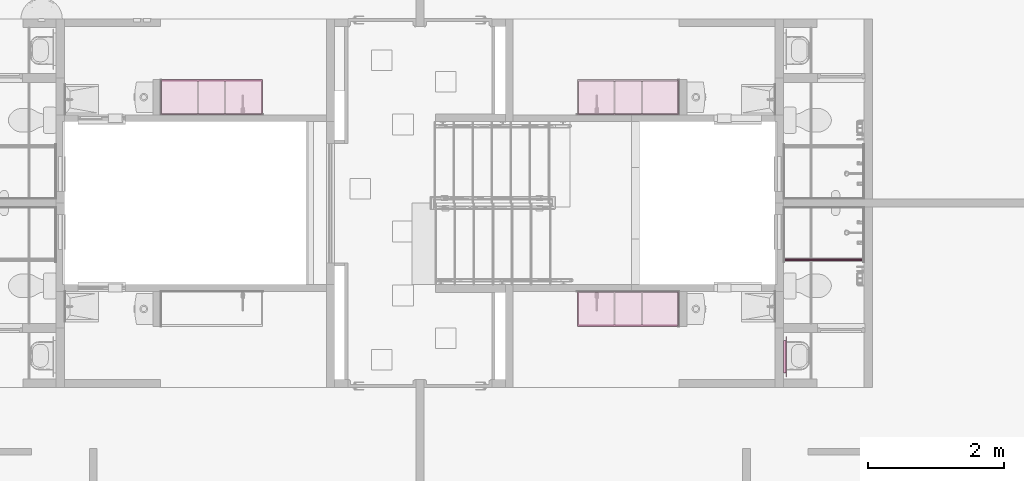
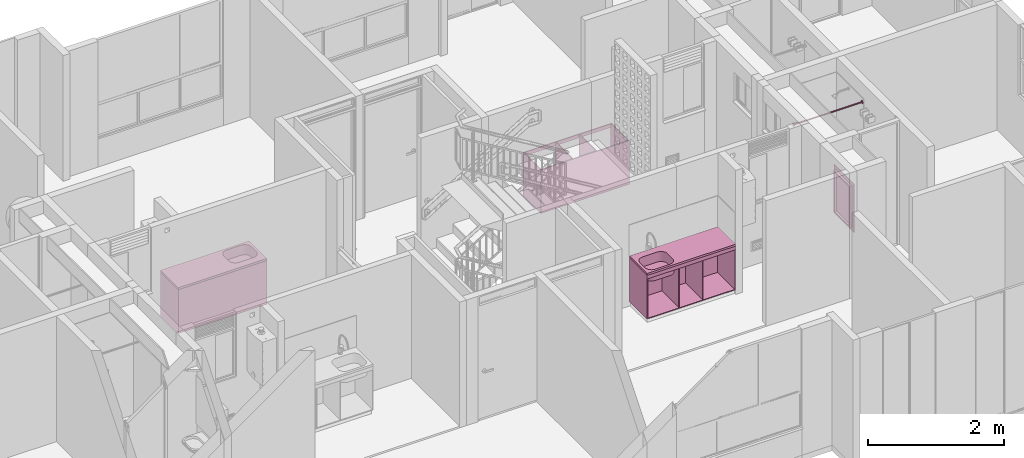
# One storey, part 45 of 51: 7 furniture elements.
"""IFC4 building model written with IfcOpenShell, lengths in metres."""

from ifc_helpers import new_model, entity, si_unit, converted_unit, derived_unit, direction, frame, origin, place, context, subcontext, project, spatial, arc, indexed_curve, outline, extrude, polygons, source, transform, mapped, material, constituent, constituent_set, type_object, type_shapes, element, save


model = new_model("IFC4")

# Units and contexts
model_context = context("Model", 3, precision=1e-05, world=origin(), true_north=direction((6.123031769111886e-17, 1.0)))
body_context = subcontext(model_context, "Body", "Model", "MODEL_VIEW")
ifc_project = project(units=[si_unit("LENGTHUNIT", "METRE"), si_unit("AREAUNIT", "SQUARE_METRE"), si_unit("VOLUMEUNIT", "CUBIC_METRE"), converted_unit("PLANEANGLEUNIT", "DEGREE", entity("IfcRatioMeasure", 0.017453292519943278), si_unit("PLANEANGLEUNIT", "RADIAN"), dimensions=[0, 0, 0, 0, 0, 0, 0]), si_unit("MASSUNIT", "GRAM", prefix="KILO"), derived_unit("MASSDENSITYUNIT", [(si_unit("MASSUNIT", "GRAM", prefix="KILO"), 1), (si_unit("LENGTHUNIT", "METRE"), -3)]), derived_unit("IONCONCENTRATIONUNIT", [(si_unit("MASSUNIT", "GRAM", prefix="KILO"), 1), (si_unit("LENGTHUNIT", "METRE"), -3)]), derived_unit("MOMENTOFINERTIAUNIT", [(si_unit("LENGTHUNIT", "METRE"), 4)]), si_unit("TIMEUNIT", "SECOND"), si_unit("FREQUENCYUNIT", "HERTZ"), si_unit("THERMODYNAMICTEMPERATUREUNIT", "DEGREE_CELSIUS"), derived_unit("THERMALTRANSMITTANCEUNIT", [(si_unit("MASSUNIT", "GRAM", prefix="KILO"), 1), (si_unit("THERMODYNAMICTEMPERATUREUNIT", "KELVIN"), -1), (si_unit("TIMEUNIT", "SECOND"), -3)]), derived_unit("THERMALCONDUCTANCEUNIT", [(si_unit("MASSUNIT", "GRAM", prefix="KILO"), 1), (si_unit("THERMODYNAMICTEMPERATUREUNIT", "KELVIN"), -1), (si_unit("TIMEUNIT", "SECOND"), -3), (si_unit("LENGTHUNIT", "METRE"), 1)]), derived_unit("VOLUMETRICFLOWRATEUNIT", [(si_unit("LENGTHUNIT", "METRE"), 3), (si_unit("TIMEUNIT", "SECOND"), -1)]), derived_unit("MASSFLOWRATEUNIT", [(si_unit("MASSUNIT", "GRAM", prefix="KILO"), 1), (si_unit("TIMEUNIT", "SECOND"), -1)]), derived_unit("ROTATIONALFREQUENCYUNIT", [(si_unit("TIMEUNIT", "SECOND"), -1)]), si_unit("ELECTRICCURRENTUNIT", "AMPERE"), si_unit("ELECTRICVOLTAGEUNIT", "VOLT"), si_unit("POWERUNIT", "WATT"), si_unit("FORCEUNIT", "NEWTON", prefix="KILO"), si_unit("ILLUMINANCEUNIT", "LUX"), si_unit("LUMINOUSFLUXUNIT", "LUMEN"), si_unit("LUMINOUSINTENSITYUNIT", "CANDELA"), derived_unit("USERDEFINED", [(si_unit("MASSUNIT", "GRAM", prefix="KILO"), -1), (si_unit("LENGTHUNIT", "METRE"), -2), (si_unit("TIMEUNIT", "SECOND"), 3), (si_unit("LUMINOUSFLUXUNIT", "LUMEN"), 1)]), derived_unit("USERDEFINED", [(si_unit("MASSUNIT", "GRAM", prefix="KILO"), 1), (si_unit("TIMEUNIT", "SECOND"), -3), (si_unit("LENGTHUNIT", "METRE"), 3), (si_unit("ELECTRICCURRENTUNIT", "AMPERE"), -2)]), derived_unit("SOUNDPOWERUNIT", [(si_unit("MASSUNIT", "GRAM", prefix="KILO"), 1), (si_unit("TIMEUNIT", "SECOND"), -3), (si_unit("LENGTHUNIT", "METRE"), 2)]), derived_unit("SOUNDPRESSUREUNIT", [(si_unit("MASSUNIT", "GRAM", prefix="KILO"), 1), (si_unit("LENGTHUNIT", "METRE"), -1), (si_unit("TIMEUNIT", "SECOND"), -2)]), derived_unit("LINEARVELOCITYUNIT", [(si_unit("LENGTHUNIT", "METRE"), 1), (si_unit("TIMEUNIT", "SECOND"), -1)]), si_unit("PRESSUREUNIT", "PASCAL"), derived_unit("USERDEFINED", [(si_unit("MASSUNIT", "GRAM", prefix="KILO"), 1), (si_unit("LENGTHUNIT", "METRE"), -2), (si_unit("TIMEUNIT", "SECOND"), -2)]), derived_unit("LINEARFORCEUNIT", [(si_unit("MASSUNIT", "GRAM", prefix="KILO"), 1), (si_unit("TIMEUNIT", "SECOND"), -2)]), derived_unit("PLANARFORCEUNIT", [(si_unit("MASSUNIT", "GRAM", prefix="KILO"), 1), (si_unit("LENGTHUNIT", "METRE"), -1), (si_unit("TIMEUNIT", "SECOND"), -2)]), derived_unit("SPECIFICHEATCAPACITYUNIT", [(si_unit("THERMODYNAMICTEMPERATUREUNIT", "KELVIN"), -1), (si_unit("LENGTHUNIT", "METRE"), 2), (si_unit("TIMEUNIT", "SECOND"), -2)]), derived_unit("HEATINGVALUEUNIT", [(si_unit("LENGTHUNIT", "METRE"), 2), (si_unit("TIMEUNIT", "SECOND"), -2)]), derived_unit("VAPORPERMEABILITYUNIT", [(si_unit("LENGTHUNIT", "METRE"), -1), (si_unit("TIMEUNIT", "SECOND"), 1)]), derived_unit("DYNAMICVISCOSITYUNIT", [(si_unit("MASSUNIT", "GRAM", prefix="KILO"), 1), (si_unit("TIMEUNIT", "SECOND"), -1), (si_unit("LENGTHUNIT", "METRE"), -1)]), derived_unit("THERMALEXPANSIONCOEFFICIENTUNIT", [(si_unit("THERMODYNAMICTEMPERATUREUNIT", "KELVIN"), -1)]), derived_unit("MODULUSOFELASTICITYUNIT", [(si_unit("MASSUNIT", "GRAM", prefix="KILO"), 1), (si_unit("LENGTHUNIT", "METRE"), -1), (si_unit("TIMEUNIT", "SECOND"), -2)]), derived_unit("ISOTHERMALMOISTURECAPACITYUNIT", [(si_unit("LENGTHUNIT", "METRE"), 3), (si_unit("MASSUNIT", "GRAM", prefix="KILO"), -1)]), derived_unit("MOISTUREDIFFUSIVITYUNIT", [(si_unit("TIMEUNIT", "SECOND"), -1), (si_unit("LENGTHUNIT", "METRE"), 2)])], contexts=[model_context])

# Site, building, storey
site_placement = place(None, origin())
site = spatial("IfcSite", under=ifc_project, at=site_placement, Name="Default", CompositionType="ELEMENT")
building_placement = place(site_placement, origin())
building = spatial("IfcBuilding", under=site, at=building_placement, CompositionType="ELEMENT")
storey_placement = place(building_placement, frame((0.0, 0.0, 2.350000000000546)))
storey = spatial("IfcBuildingStorey", under=building, at=storey_placement, Name="Nivel 2", CompositionType="ELEMENT", Elevation=2.350000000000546)

# Furniture
ifc_material_1 = material(Name="Aluminio", Category="Materials")
ifc_constituent_1 = constituent(ifc_material_1, Name="Aluminio", Category="Materials")
ifc_material_2 = material(Name="ESPEJO", Category="Materials")
ifc_constituent_2 = constituent(ifc_material_2, Name="ESPEJO", Category="Materials")
ifc_constituent_set_1 = constituent_set(constituents=[ifc_constituent_1, ifc_constituent_2])
ifc_constituent_3 = constituent(ifc_material_1, Name="Aluminio", Category="Materials")
ifc_constituent_4 = constituent(ifc_material_2, Name="ESPEJO", Category="Materials")
ifc_constituent_set_2 = constituent_set(constituents=[ifc_constituent_3, ifc_constituent_4])
furniture_type_1 = type_object("IfcFurnitureType", Name="E2050 - Espejo:E2050 - 0.60m x 0.87m - Espejo", AssemblyPlace="NOTDEFINED", PredefinedType="NOTDEFINED", material=ifc_constituent_set_2)
shared_shape_1 = source(origin(), body_context, "Body", "SweptSolid", [
    extrude(outline(indexed_curve([(-0.3749999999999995, -0.2399999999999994), (0.37499999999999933, -0.23999999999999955), (0.3749999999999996, 0.2399999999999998), (-0.3749999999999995, 0.23999999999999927), (-0.3749999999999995, -0.2399999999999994)], self_intersect=False), holes=[indexed_curve([(-0.34999999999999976, 0.21499999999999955), (0.34999999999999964, 0.21499999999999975), (0.34999999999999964, -0.21499999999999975), (-0.34999999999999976, -0.21499999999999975), (-0.34999999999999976, 0.21499999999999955)], self_intersect=False)]), frame((0.12499999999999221, -0.09999999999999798, 1.485), z_axis=(0.0, 1.0, 0.0), x_axis=(0.0, 0.0, -1.0)), (0.0, 0.0, 1.0), 0.037500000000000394),
    extrude(outline(indexed_curve([(-0.30000000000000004, -0.00350000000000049), (0.30000000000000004, -0.00350000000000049), (0.30000000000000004, 0.00350000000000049), (-0.30000000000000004, 0.00350000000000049), (-0.30000000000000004, -0.00350000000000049)], self_intersect=False)), frame((0.1249999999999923, -0.10350000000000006, 1.05), z_axis=(0.0, 0.0, 1.0), x_axis=(-1.0, 0.0, 0.0)), (0.0, 0.0, 1.0), 0.87),
])
type_shapes(furniture_type_1, [shared_shape_1])
furniture_1_placement = place(storey_placement, frame((14.620000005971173, -8.815000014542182, -0.020000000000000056), z_axis=(0.0, 0.0, 1.0), x_axis=(0.0, 1.0, 0.0)))
element("IfcFurniture", 1, at=furniture_1_placement, inside=storey, type_object=furniture_type_1, material=ifc_constituent_set_1, Name="E2050 - Espejo:E2050 - 0.60m x 0.87m - Espejo", ObjectType="E2050 - Espejo:E2050 - 0.60m x 0.87m - Espejo", PredefinedType="NOTDEFINED", context=body_context, shape_type="MappedRepresentation", body=[
    mapped(shared_shape_1, transform((0.0, 0.0, 0.0), scale=1.0)),
])

# Space
space_1_placement = place(storey_placement, origin())
space_1 = spatial("IfcSpace", under=storey, at=space_1_placement, Name="426", CompositionType="ELEMENT", PredefinedType="SPACE")

# Furniture
ifc_material_3 = material(Name="<Unnamed>")
furniture_type_2 = type_object("IfcFurnitureType", Name="Barra baño:E2050- Barra Baño- Acero inoxidable", AssemblyPlace="NOTDEFINED", PredefinedType="NOTDEFINED", material=ifc_material_3)
shared_shape_2 = source(origin(), body_context, "Body", "SweptSolid", [
    extrude(outline(indexed_curve([(-0.025, 2.707167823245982e-16), (-2.9325041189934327e-16, -0.025), (0.025, 0.0), (7.924642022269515e-17, 0.025)], segments=[arc(1, 2, 3), arc(3, 4, 1)], self_intersect=False)), frame((-1.1599989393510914, 0.0, 1.8000000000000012), z_axis=(1.0, 0.0, 0.0), x_axis=(0.0, -1.0, 0.0)), (0.0, 0.0, 1.0), 0.005000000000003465),
    extrude(outline(indexed_curve([(-0.03, 2.707167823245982e-16), (-3.2525514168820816e-16, -0.029999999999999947), (0.03, 0.0), (9.509570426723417e-17, 0.029999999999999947)], segments=[arc(1, 2, 3), arc(3, 4, 1)], self_intersect=False)), frame((-1.164998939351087, 0.0, 1.8000000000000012), z_axis=(1.0, 0.0, 0.0), x_axis=(0.0, -1.0, 0.0)), (0.0, 0.0, 1.0), 0.0049999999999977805),
    extrude(outline(indexed_curve([(-0.0125, 0.0), (-8.001182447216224e-17, -0.012499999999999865), (0.0125, 0.0), (3.9623210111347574e-17, 0.012499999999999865)], segments=[arc(1, 2, 3), arc(3, 4, 1)], self_intersect=False)), frame((-1.1549989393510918, 0.0, 1.7999999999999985), z_axis=(1.0, 0.0, 0.0), x_axis=(0.0, -1.0, 0.0)), (0.0, 0.0, 1.0), 1.149998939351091),
    extrude(outline(indexed_curve([(-0.025, 0.0), (-1.600236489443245e-16, -0.025000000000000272), (0.025, 0.0), (-5.398034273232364e-17, 0.02499999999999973)], segments=[arc(1, 2, 3), arc(3, 4, 1)], self_intersect=False)), frame((-0.005000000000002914, 0.0, 1.7999999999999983), z_axis=(1.0, 0.0, 0.0), x_axis=(0.0, -1.0, 0.0)), (0.0, 0.0, 1.0), 0.005000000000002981),
    extrude(outline(indexed_curve([(-0.03, 0.0), (-1.9202837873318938e-16, -0.030000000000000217), (0.03, 0.0), (-3.813105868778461e-17, 0.029999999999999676)], segments=[arc(1, 2, 3), arc(3, 4, 1)], self_intersect=False)), frame((0.0, 0.0, 1.7999999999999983), z_axis=(1.0, 0.0, 0.0), x_axis=(0.0, -1.0, 0.0)), (0.0, 0.0, 1.0), 0.00499999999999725),
])
type_shapes(furniture_type_2, [shared_shape_2])
furniture_2_placement = place(space_1_placement, frame((14.692500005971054, -7.260000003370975, 0.12999999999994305), z_axis=(0.0, 0.0, 1.0), x_axis=(-1.0, 0.0, 0.0)))
element("IfcFurniture", 2, at=furniture_2_placement, inside=space_1, type_object=furniture_type_2, material=ifc_material_3, Name="Barra baño:E2050- Barra Baño- Acero inoxidable", ObjectType="Barra baño:E2050- Barra Baño- Acero inoxidable", PredefinedType="NOTDEFINED", context=body_context, shape_type="MappedRepresentation", body=[
    mapped(shared_shape_2, transform((0.0, 0.0, 0.0), scale=1.0)),
])

# Space
space_2_placement = place(storey_placement, origin())
space_2 = spatial("IfcSpace", under=storey, at=space_2_placement, Name="422", CompositionType="ELEMENT", PredefinedType="SPACE")

# Furniture
ifc_material_4 = material(Name="mueble cocina", Category="Materials")
furniture_type_3 = type_object("IfcFurnitureType", Name="E2010 - Mueble bajo de cocina - Madera:E2010 - 1.50 x 0.52 - Mueble bajo de cocina - Madera", AssemblyPlace="NOTDEFINED", PredefinedType="NOTDEFINED", material=ifc_material_4)
shared_shape_3 = source(origin(), body_context, "Body", "SweptSolid", [
    extrude(outline(indexed_curve([(-0.007500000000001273, -0.7349999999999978), (0.007499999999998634, -0.7349999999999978), (0.007500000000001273, 0.7349999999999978), (-0.007499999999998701, 0.7349999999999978), (-0.007500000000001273, -0.7349999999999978)], self_intersect=False)), frame((0.04470032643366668, -0.5125000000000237, 0.8149999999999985), z_axis=(0.0, 0.0, 1.0), x_axis=(0.0, -1.0, 0.0)), (0.0, 0.0, 1.0), 0.06500000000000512),
    extrude(outline(indexed_curve([(-0.2600000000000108, -0.7499999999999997), (0.260000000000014, -0.7499999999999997), (0.2600000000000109, 0.7500000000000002), (-0.2600000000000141, 0.7499999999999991), (-0.2600000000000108, -0.7499999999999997)], self_intersect=False)), frame((0.04470032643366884, -0.2600000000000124, 0.09500000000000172), z_axis=(0.0, 0.0, 1.0), x_axis=(0.0, -1.0, 0.0)), (0.0, 0.0, 1.0), 0.0149999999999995),
    extrude(outline(indexed_curve([(-0.007500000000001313, -0.7500000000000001), (0.007499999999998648, -0.7500000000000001), (0.0075000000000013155, 0.7500000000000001), (-0.007499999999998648, 0.7500000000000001), (-0.007500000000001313, -0.7500000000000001)], self_intersect=False)), frame((0.04470032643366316, -0.00749999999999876, 0.11000000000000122), z_axis=(0.0, 0.0, 1.0), x_axis=(0.0, -1.0, 0.0)), (0.0, 0.0, 1.0), 0.7700000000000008),
    extrude(outline(indexed_curve([(-0.007500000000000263, -0.24500000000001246), (0.007499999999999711, -0.24500000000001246), (0.007500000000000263, 0.24500000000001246), (-0.007499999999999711, 0.24500000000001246), (-0.007500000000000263, -0.24500000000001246)], self_intersect=False)), frame((-0.1552996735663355, -0.2600000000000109, 0.11000000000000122), z_axis=(0.0, 0.0, 1.0), x_axis=(-1.0, 0.0, 0.0)), (0.0, 0.0, 1.0), 0.7700000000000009),
    extrude(outline(indexed_curve([(-0.007499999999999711, -0.24500000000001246), (0.007500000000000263, -0.24500000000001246), (0.007499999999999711, 0.24500000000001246), (-0.007500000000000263, 0.24500000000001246), (-0.007499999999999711, -0.24500000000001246)], self_intersect=False)), frame((0.24470032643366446, -0.26000000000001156, 0.11000000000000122), z_axis=(0.0, 0.0, 1.0), x_axis=(-1.0, 0.0, 0.0)), (0.0, 0.0, 1.0), 0.7700000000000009),
    extrude(outline(indexed_curve([(-0.00750000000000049, -0.2525000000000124), (0.0074999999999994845, -0.25250000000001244), (0.007500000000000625, 0.2525000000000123), (-0.007499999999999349, 0.2525000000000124), (-0.00750000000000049, -0.2525000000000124)], self_intersect=False)), frame((0.7872003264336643, -0.2675000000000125, 0.11000000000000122), z_axis=(0.0, 0.0, 1.0), x_axis=(-1.0, 0.0, 0.0)), (0.0, 0.0, 1.0), 0.7700000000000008),
    extrude(outline(indexed_curve([(-0.007499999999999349, -0.2525000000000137), (0.007500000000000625, -0.2525000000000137), (0.0074999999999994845, 0.25250000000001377), (-0.00750000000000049, 0.2525000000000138), (-0.007499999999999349, -0.2525000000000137)], self_intersect=False)), frame((-0.697799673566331, -0.2675000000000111, 0.11000000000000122), z_axis=(0.0, 0.0, 1.0), x_axis=(-1.0, 0.0, 0.0)), (0.0, 0.0, 1.0), 0.7700000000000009),
])
type_shapes(furniture_type_3, [shared_shape_3])
furniture_3_placement = place(space_2_placement, frame((12.437200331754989, -5.1250000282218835, 0.0150000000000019), z_axis=(0.0, 0.0, 1.0), x_axis=(-1.0, 0.0, 0.0)))
element("IfcFurniture", 3, at=furniture_3_placement, inside=space_2, type_object=furniture_type_3, material=ifc_material_4, Name="E2010 - Mueble bajo de cocina - Madera:E2010 - 1.50 x 0.52 - Mueble bajo de cocina - Madera", ObjectType="E2010 - Mueble bajo de cocina - Madera:E2010 - 1.50 x 0.52 - Mueble bajo de cocina - Madera", PredefinedType="NOTDEFINED", context=body_context, shape_type="MappedRepresentation", body=[
    mapped(shared_shape_3, transform((0.0, 0.0, 0.0), scale=1.0)),
])

# Space
space_3_placement = place(storey_placement, origin())
space_3 = spatial("IfcSpace", under=storey, at=space_3_placement, Name="407", CompositionType="ELEMENT", PredefinedType="SPACE")

# Furniture
furniture_type_4 = type_object("IfcFurnitureType", Name="E2010 - Mueble bajo de cocina - Madera:E2010 - 1.50 x 0.52 - Mueble bajo de cocina - Madera", AssemblyPlace="NOTDEFINED", PredefinedType="NOTDEFINED", material=ifc_material_4)
shared_shape_4 = source(origin(), body_context, "Body", "SweptSolid", [
    extrude(outline(indexed_curve([(-0.7349999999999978, -0.007499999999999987), (0.7349999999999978, -0.007499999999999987), (0.7349999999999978, 0.007499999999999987), (-0.7349999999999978, 0.007499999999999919), (-0.7349999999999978, -0.007499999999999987)], self_intersect=False)), frame((0.04470032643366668, 0.5125000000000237, 0.8149999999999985)), (0.0, 0.0, 1.0), 0.06500000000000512),
    extrude(outline(indexed_curve([(-0.7499999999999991, -0.26000000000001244), (0.7499999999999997, -0.26000000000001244), (0.7499999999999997, 0.26000000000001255), (-0.7500000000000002, 0.26000000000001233), (-0.7499999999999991, -0.26000000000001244)], self_intersect=False)), frame((0.04470032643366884, 0.26000000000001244, 0.09500000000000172)), (0.0, 0.0, 1.0), 0.0149999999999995),
    extrude(outline(indexed_curve([(-0.7500000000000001, -0.007499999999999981), (0.7500000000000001, -0.007499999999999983), (0.7500000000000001, 0.007499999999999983), (-0.7500000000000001, 0.007499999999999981), (-0.7500000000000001, -0.007499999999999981)], self_intersect=False)), frame((0.04470032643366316, 0.00749999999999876, 0.11000000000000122)), (0.0, 0.0, 1.0), 0.7700000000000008),
    extrude(outline(indexed_curve([(-0.24500000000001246, -0.007499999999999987), (0.24500000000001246, -0.007499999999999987), (0.24500000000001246, 0.007499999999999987), (-0.24500000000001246, 0.007499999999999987), (-0.24500000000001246, -0.007499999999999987)], self_intersect=False)), frame((-0.1552996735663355, 0.2600000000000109, 0.11000000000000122), z_axis=(0.0, 0.0, 1.0), x_axis=(0.0, 1.0, 0.0)), (0.0, 0.0, 1.0), 0.7700000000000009),
    extrude(outline(indexed_curve([(-0.24500000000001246, -0.007499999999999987), (0.24500000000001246, -0.007499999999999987), (0.24500000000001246, 0.007499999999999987), (-0.24500000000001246, 0.007499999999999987), (-0.24500000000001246, -0.007499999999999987)], self_intersect=False)), frame((0.24470032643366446, 0.26000000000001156, 0.11000000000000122), z_axis=(0.0, 0.0, 1.0), x_axis=(0.0, 1.0, 0.0)), (0.0, 0.0, 1.0), 0.7700000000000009),
    extrude(outline(indexed_curve([(-0.25250000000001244, -0.007500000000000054), (0.2525000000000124, -0.007500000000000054), (0.2525000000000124, 0.007499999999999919), (-0.2525000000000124, 0.007499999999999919), (-0.25250000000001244, -0.007500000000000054)], self_intersect=False)), frame((0.7872003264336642, 0.2675000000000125, 0.11000000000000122), z_axis=(0.0, 0.0, 1.0), x_axis=(0.0, 1.0, 0.0)), (0.0, 0.0, 1.0), 0.7700000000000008),
    extrude(outline(indexed_curve([(-0.2525000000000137, -0.007500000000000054), (0.2525000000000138, -0.007500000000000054), (0.2525000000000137, 0.007499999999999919), (-0.2525000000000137, 0.007499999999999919), (-0.2525000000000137, -0.007500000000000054)], self_intersect=False)), frame((-0.6977996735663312, 0.2675000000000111, 0.11000000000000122), z_axis=(0.0, 0.0, 1.0), x_axis=(0.0, 1.0, 0.0)), (0.0, 0.0, 1.0), 0.7700000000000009),
])
type_shapes(furniture_type_4, [shared_shape_4])
furniture_4_placement = place(space_3_placement, frame((6.207799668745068, -5.1250000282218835, 0.0150000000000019)))
element("IfcFurniture", 4, at=furniture_4_placement, inside=space_3, type_object=furniture_type_4, material=ifc_material_4, Name="E2010 - Mueble bajo de cocina - Madera:E2010 - 1.50 x 0.52 - Mueble bajo de cocina - Madera", ObjectType="E2010 - Mueble bajo de cocina - Madera:E2010 - 1.50 x 0.52 - Mueble bajo de cocina - Madera", PredefinedType="NOTDEFINED", context=body_context, shape_type="MappedRepresentation", body=[
    mapped(shared_shape_4, transform((0.0, 0.0, 0.0), scale=1.0)),
])

# Space
space_4_placement = place(storey_placement, origin())
space_4 = spatial("IfcSpace", under=storey, at=space_4_placement, Name="429", CompositionType="ELEMENT", PredefinedType="SPACE")

# Furniture
furniture_5_placement = place(space_4_placement, frame((12.437200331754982, -7.725000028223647, 0.0150000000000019), z_axis=(0.0, 0.0, 1.0), x_axis=(-1.0, 0.0, 0.0)))
element("IfcFurniture", 5, at=furniture_5_placement, inside=space_4, type_object=furniture_type_4, material=ifc_material_4, Name="E2010 - Mueble bajo de cocina - Madera:E2010 - 1.50 x 0.52 - Mueble bajo de cocina - Madera", ObjectType="E2010 - Mueble bajo de cocina - Madera:E2010 - 1.50 x 0.52 - Mueble bajo de cocina - Madera", PredefinedType="NOTDEFINED", context=body_context, shape_type="MappedRepresentation", body=[
    mapped(shared_shape_4, transform((0.0, 0.0, 0.0), scale=1.0)),
])
ifc_material_5 = material(Name="Mesón cocina", Category="Materials")
furniture_type_5 = type_object("IfcFurnitureType", Name="E1060 - Meson Socoda Radiante - 1.50 X 0.52 - Acero inoxidable:E1060 - 1.50 x 0.52 - Meson de cocina, lavadero y estufa - Acero inoxidable", AssemblyPlace="NOTDEFINED", PredefinedType="NOTDEFINED", material=ifc_material_5)
shared_shape_5 = source(origin(), body_context, "Body", "Tessellation", [
    polygons([(0.7500000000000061, -0.2600000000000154, 0.03499999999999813), (0.7500000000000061, 0.2600000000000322, 0.03499999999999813), (-0.7499999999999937, 0.2600000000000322, 0.03499999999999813), (-0.7499999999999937, -0.2600000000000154, 0.03499999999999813), (0.23610399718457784, -0.03077661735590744, 0.03499999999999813), (0.23610399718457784, 0.11422338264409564, 0.03499999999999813), (0.23985215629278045, 0.14269347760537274, 0.03499999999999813), (0.2508412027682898, 0.1692233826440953, 0.03499999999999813), (0.2683222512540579, 0.1920051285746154, 0.03499999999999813), (0.2911039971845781, 0.20948617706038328, 0.03499999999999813), (0.31763390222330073, 0.22047522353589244, 0.03499999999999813), (0.3461039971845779, 0.22422338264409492, 0.03499999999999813), (0.5934732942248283, 0.2242233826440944, 0.03499999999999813), (0.6219433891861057, 0.22047522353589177, 0.03499999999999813), (0.6484732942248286, 0.20948617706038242, 0.03499999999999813), (0.6712550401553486, 0.1920051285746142, 0.03499999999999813), (0.6887360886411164, 0.1692233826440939, 0.03499999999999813), (0.6997251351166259, 0.14269347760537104, 0.03499999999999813), (0.703473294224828, 0.11422338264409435, 0.03499999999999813), (0.7034732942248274, -0.030776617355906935, 0.03499999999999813), (0.6997251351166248, -0.05924671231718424, 0.03499999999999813), (0.6887360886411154, -0.08577661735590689, 0.03499999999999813), (0.6712550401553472, -0.10855836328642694, 0.03499999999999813), (0.6484732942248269, -0.1260394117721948, 0.03499999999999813), (0.6219433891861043, -0.13702845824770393, 0.03499999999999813), (0.5934732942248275, -0.14077661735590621, 0.03499999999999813), (0.3461039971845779, -0.14077661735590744, 0.03499999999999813), (0.31763390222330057, -0.13702845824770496, 0.03499999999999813), (0.2911039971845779, -0.1260394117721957, 0.03499999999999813), (0.2683222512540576, -0.10855836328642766, 0.03499999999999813), (0.2508412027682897, -0.08577661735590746, 0.03499999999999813), (0.23985215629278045, -0.05924671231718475, 0.03499999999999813), (0.7500000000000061, -0.2600000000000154, -1.8678232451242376e-15), (-0.7499999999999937, -0.2600000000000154, -1.8678232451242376e-15), (-0.7499999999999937, 0.2600000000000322, -1.8678232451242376e-15), (0.7500000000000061, 0.2600000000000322, -1.8678232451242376e-15), (0.5934732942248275, -0.15077661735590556, -1.8678232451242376e-15), (0.62453157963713, -0.1466877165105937, -1.8678232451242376e-15), (0.6534732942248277, -0.13469966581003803, -1.8678232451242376e-15), (0.6783261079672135, -0.11562943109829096, -1.8678232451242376e-15), (0.6973963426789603, -0.09077661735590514, -1.8678232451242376e-15), (0.7093843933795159, -0.061834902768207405, -1.8678232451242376e-15), (0.7134732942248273, -0.030776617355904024, -1.8678232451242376e-15), (0.7134732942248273, 0.11422338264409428, -1.8678232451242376e-15), (0.7093843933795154, 0.14528166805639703, -1.8678232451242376e-15), (0.6973963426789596, 0.17422338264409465, -1.8678232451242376e-15), (0.6783261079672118, 0.19907619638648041, -1.8678232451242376e-15), (0.6534732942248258, 0.21814643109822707, -1.8678232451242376e-15), (0.6245315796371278, 0.2301344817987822, -1.8678232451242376e-15), (0.5934732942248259, 0.23422338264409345, -1.8678232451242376e-15), (0.34610399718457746, 0.23422338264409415, -1.8678232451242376e-15), (0.31504571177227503, 0.2301344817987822, -1.8678232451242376e-15), (0.2861039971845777, 0.2181464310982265, -1.8678232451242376e-15), (0.2612511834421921, 0.19907619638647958, -1.8678232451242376e-15), (0.24218094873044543, 0.17422338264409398, -1.8678232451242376e-15), (0.2301928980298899, 0.14528166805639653, -1.8678232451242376e-15), (0.22610399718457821, 0.11422338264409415, -1.8678232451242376e-15), (0.22610399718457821, -0.030776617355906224, -1.8678232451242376e-15), (0.23019289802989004, -0.06183490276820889, -1.8678232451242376e-15), (0.2421809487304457, -0.09077661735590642, -1.8678232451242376e-15), (0.2612511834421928, -0.11562943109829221, -1.8678232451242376e-15), (0.2861039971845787, -0.13469966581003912, -1.8678232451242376e-15), (0.31504571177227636, -0.1466877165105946, -1.8678232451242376e-15), (0.34610399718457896, -0.1507766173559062, -1.8678232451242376e-15), (0.5934732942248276, -0.1507766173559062, -0.16000000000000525), (0.34610399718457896, -0.1507766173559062, -0.16000000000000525), (0.31504571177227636, -0.1466877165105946, -0.16000000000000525), (0.2861039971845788, -0.13469966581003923, -0.16000000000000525), (0.261251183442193, -0.11562943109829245, -0.16000000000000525), (0.2421809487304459, -0.09077661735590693, -0.16000000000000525), (0.23019289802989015, -0.06183490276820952, -0.16000000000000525), (0.22610399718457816, -0.030776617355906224, -0.16000000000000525), (0.22610399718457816, 0.11422338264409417, -0.16000000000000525), (0.2301928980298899, 0.14528166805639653, -0.16000000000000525), (0.24218094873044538, 0.17422338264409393, -0.16000000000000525), (0.26125118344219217, 0.19907619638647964, -0.16000000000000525), (0.28610399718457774, 0.21814643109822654, -0.16000000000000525), (0.3150457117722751, 0.23013448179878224, -0.16000000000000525), (0.3461039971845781, 0.23422338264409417, -0.16000000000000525), (0.5934732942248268, 0.2342233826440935, -0.16000000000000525), (0.6245315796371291, 0.2301344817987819, -0.16000000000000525), (0.6534732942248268, 0.21814643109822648, -0.16000000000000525), (0.6783261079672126, 0.19907619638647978, -0.16000000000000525), (0.6973963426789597, 0.1742233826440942, -0.16000000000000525), (0.7093843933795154, 0.1452816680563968, -0.16000000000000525), (0.7134732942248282, 0.11422338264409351, -0.16000000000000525), (0.7134732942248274, -0.03077661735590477, -0.16000000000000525), (0.7093843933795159, -0.06183490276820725, -0.16000000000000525), (0.6973963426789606, -0.0907766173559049, -0.16000000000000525), (0.6783261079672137, -0.1156294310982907, -0.16000000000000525), (0.6534732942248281, -0.13469966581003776, -0.16000000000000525), (0.6245315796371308, -0.1466877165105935, -0.16000000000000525), (0.3461039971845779, -0.1407766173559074, -0.14475899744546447), (0.5934732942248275, -0.14077661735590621, -0.14475899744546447), (0.6219433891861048, -0.13702845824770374, -0.14475899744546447), (0.6484732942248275, -0.1260394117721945, -0.14475899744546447), (0.6712550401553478, -0.10855836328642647, -0.14475899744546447), (0.6887360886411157, -0.08577661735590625, -0.14475899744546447), (0.699725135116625, -0.05924671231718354, -0.14475899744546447), (0.7034732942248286, -0.030776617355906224, -0.14475899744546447), (0.7034732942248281, 0.11422338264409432, -0.14475899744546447), (0.6997251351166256, 0.14269347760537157, -0.14475899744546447), (0.6887360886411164, 0.16922338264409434, -0.14475899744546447), (0.6712550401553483, 0.19200512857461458, -0.14475899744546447), (0.6484732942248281, 0.20948617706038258, -0.14475899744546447), (0.6219433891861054, 0.22047522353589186, -0.14475899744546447), (0.5934732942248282, 0.22422338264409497, -0.14475899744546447), (0.3461039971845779, 0.2242233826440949, -0.14475899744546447), (0.31763390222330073, 0.22047522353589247, -0.14475899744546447), (0.2911039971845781, 0.20948617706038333, -0.14475899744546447), (0.2683222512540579, 0.19200512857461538, -0.14475899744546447), (0.25084120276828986, 0.16922338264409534, -0.14475899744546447), (0.23985215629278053, 0.14269347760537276, -0.14475899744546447), (0.23610399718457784, 0.11422338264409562, -0.14475899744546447), (0.23610399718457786, -0.030776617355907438, -0.14475899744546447), (0.2398521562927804, -0.05924671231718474, -0.14475899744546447), (0.25084120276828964, -0.08577661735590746, -0.14475899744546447), (0.2683222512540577, -0.10855836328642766, -0.14475899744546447), (0.2911039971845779, -0.1260394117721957, -0.14475899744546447), (0.31763390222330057, -0.13702845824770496, -0.14475899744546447)], [[[1, 2, 3, 4], [21, 22, 23, 24, 25, 26, 27, 28, 29, 30, 31, 32, 5, 6, 7, 8, 9, 10, 11, 12, 13, 14, 15, 16, 17, 18, 19, 20]], [[94, 95, 96, 97, 98, 99, 100, 101, 102, 103, 104, 105, 106, 107, 108, 109, 110, 111, 112, 113, 114, 115, 116, 117, 118, 119, 120, 93]], [[34, 35, 36, 33], [59, 60, 61, 62, 63, 64, 37, 38, 39, 40, 41, 42, 43, 44, 45, 46, 47, 48, 49, 50, 51, 52, 53, 54, 55, 56, 57, 58]], [[71, 72, 73, 74, 75, 76, 77, 78, 79, 80, 81, 82, 83, 84, 85, 86, 87, 88, 89, 90, 91, 92, 65, 66, 67, 68, 69, 70]], [[34, 33, 1, 4]], [[65, 37, 64, 66]], [[13, 12, 108, 107]], [[34, 4, 3, 35]], [[72, 58, 57, 73]], [[20, 19, 101, 100]], [[36, 35, 3, 2]], [[79, 51, 50, 80]], [[27, 26, 94, 93]], [[36, 2, 1, 33]], [[86, 44, 43, 87]], [[6, 5, 115, 114]], [[68, 67, 63, 62]], [[14, 106, 105, 15]], [[69, 68, 62, 61]], [[15, 105, 104, 16]], [[64, 63, 67, 66]], [[107, 106, 14, 13]], [[71, 70, 60, 59]], [[17, 103, 102, 18]], [[72, 71, 59, 58]], [[18, 102, 101, 19]], [[60, 70, 69, 61]], [[16, 104, 103, 17]], [[75, 74, 56, 55]], [[99, 98, 22, 21]], [[76, 75, 55, 54]], [[98, 97, 23, 22]], [[57, 56, 74, 73]], [[21, 20, 100, 99]], [[78, 77, 53, 52]], [[24, 96, 95, 25]], [[79, 78, 52, 51]], [[25, 95, 94, 26]], [[53, 77, 76, 54]], [[23, 97, 96, 24]], [[82, 81, 49, 48]], [[28, 120, 119, 29]], [[83, 82, 48, 47]], [[29, 119, 118, 30]], [[50, 49, 81, 80]], [[93, 120, 28, 27]], [[85, 84, 46, 45]], [[31, 117, 116, 32]], [[86, 85, 45, 44]], [[32, 116, 115, 5]], [[46, 84, 83, 47]], [[30, 118, 117, 31]], [[89, 88, 42, 41]], [[7, 113, 112, 8]], [[90, 89, 41, 40]], [[8, 112, 111, 9]], [[43, 42, 88, 87]], [[114, 113, 7, 6]], [[92, 91, 39, 38]], [[10, 110, 109, 11]], [[65, 92, 38, 37]], [[11, 109, 108, 12]], [[39, 91, 90, 40]], [[9, 111, 110, 10]]], closed=True),
])
type_shapes(furniture_type_5, [shared_shape_5])
furniture_6_placement = place(space_3_placement, frame((6.252499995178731, -4.865000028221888, 0.8950000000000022)))
element("IfcFurniture", 6, at=furniture_6_placement, inside=space_3, type_object=furniture_type_5, material=ifc_material_5, Name="E1060 - Meson Socoda Radiante - 1.50 X 0.52 - Acero inoxidable:E1060 - 1.50 x 0.52 - Meson de cocina, lavadero y estufa - Acero inoxidable", ObjectType="E1060 - Meson Socoda Radiante - 1.50 X 0.52 - Acero inoxidable:E1060 - 1.50 x 0.52 - Meson de cocina, lavadero y estufa - Acero inoxidable", PredefinedType="NOTDEFINED", context=body_context, shape_type="MappedRepresentation", body=[
    mapped(shared_shape_5, transform((0.0, 0.0, 0.0), scale=1.0)),
])
furniture_7_placement = place(space_4_placement, frame((12.392500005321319, -7.9850000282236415, 0.8950000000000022), z_axis=(0.0, 0.0, 1.0), x_axis=(-1.0, 0.0, 0.0)))
element("IfcFurniture", 7, at=furniture_7_placement, inside=space_4, type_object=furniture_type_5, material=ifc_material_5, Name="E1060 - Meson Socoda Radiante - 1.50 X 0.52 - Acero inoxidable:E1060 - 1.50 x 0.52 - Meson de cocina, lavadero y estufa - Acero inoxidable", ObjectType="E1060 - Meson Socoda Radiante - 1.50 X 0.52 - Acero inoxidable:E1060 - 1.50 x 0.52 - Meson de cocina, lavadero y estufa - Acero inoxidable", PredefinedType="NOTDEFINED", context=body_context, shape_type="MappedRepresentation", body=[
    mapped(shared_shape_5, transform((0.0, 0.0, 0.0), scale=1.0)),
])

save(model, "model.ifc")
